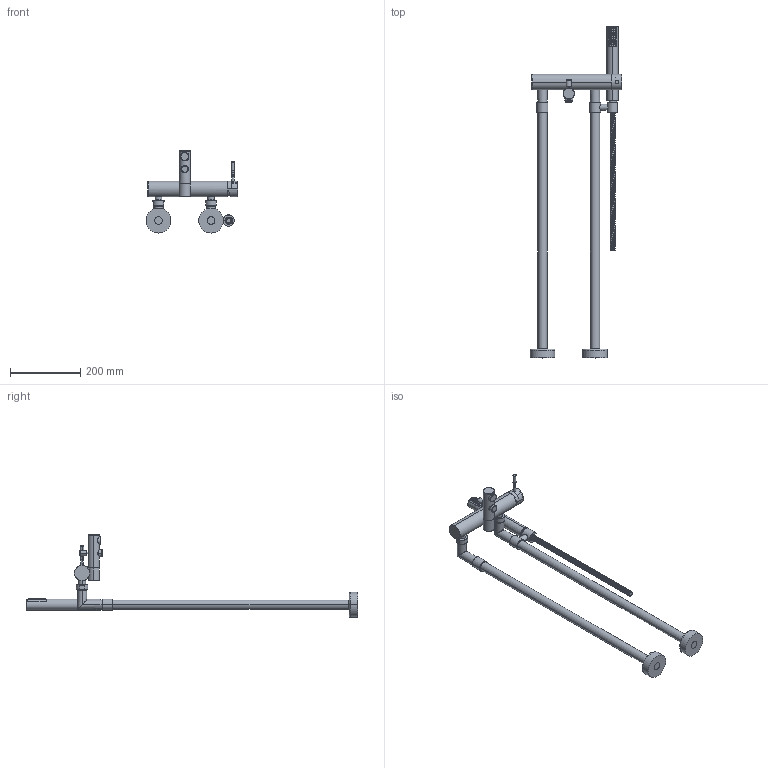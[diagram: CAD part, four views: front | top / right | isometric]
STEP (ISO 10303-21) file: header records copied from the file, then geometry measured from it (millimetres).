
FILE_DESCRIPTION((''),'2;1');
FILE_NAME('F3224_4_FILE_3D','2013-04-23T',('ivanv'),(''),'PRO/ENGINEER BY PARAMETRIC TECHNOLOGY CORPORATION, 2012130','PRO/ENGINEER BY PARAMETRIC TECHNOLOGY CORPORATION, 2012130','');
FILE_SCHEMA(('CONFIG_CONTROL_DESIGN'));
Products named in the file (1): F3224_4_FILE_3D
Bounding box: 262.3 x 947 x 234.3 mm (x, y, z)
Volume: 1240938.9 mm3; surface area: 395639 mm2
Topology: 2 solids, 6 shells, 713 faces, 1719 edges, 1085 vertices
Faces by surface type: cylinder 365, plane 186, bspline 70, cone 61, torus 31
Entity records: 68260 total; most frequent: CARTESIAN_POINT 52650, ORIENTED_EDGE 3402, DIRECTION 2879, EDGE_CURVE 1701, AXIS2_PLACEMENT_3D 1113, VERTEX_POINT 1085, EDGE_LOOP 800, FACE_OUTER_BOUND 713
